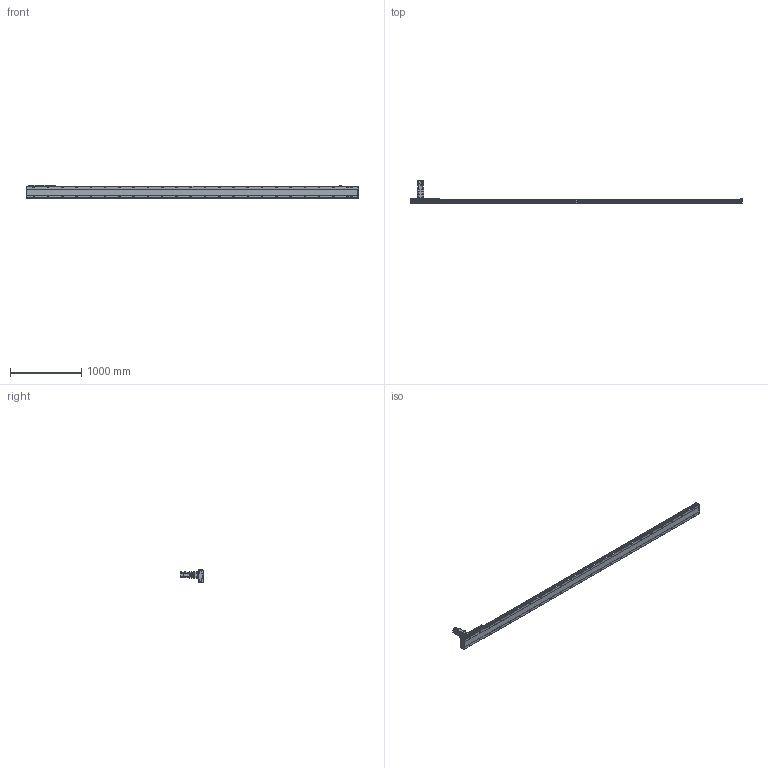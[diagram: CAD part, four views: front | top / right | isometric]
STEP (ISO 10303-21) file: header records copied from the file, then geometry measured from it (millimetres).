
FILE_DESCRIPTION(/* description */ ('STEP AP203'),/* implementation_level */ '2;1');
FILE_NAME(/* name */ 'SHS17A-L13-S4200-BC-T75-C1-N(0)',/* time_stamp */ '2023-03-27T08:59:03+02:00',/* author */ ('License CC BY-ND 4.0'),/* organization */ ('CADENAS'),/* preprocessor_version */ 'ST-DEVELOPER v19.3',/* originating_system */ 'PARTsolutions',/* authorisation */ ' ');
FILE_SCHEMA (('CONFIG_CONTROL_DESIGN'));
Length unit declared in the file: millimetre
Products named in the file (7): SHS17A-L13-S4200-BC-T75-C1-N(0); PSC140-sensor; SHS17A-S4200(0)_body2; T75-p1; SHS17A-S4200_body3; SHS17A-S4200-C1(0)_slider; SHS17A-S4200-C1(0)_body
Assembly tree (13 placements, depth 2):
  SHS17A-L13-S4200-BC-T75-C1-N(0)
    PSC140-sensor  x3
    SHS17A-S4200(0)_body2  x6
    T75-p1
    SHS17A-S4200_body3
    SHS17A-S4200-C1(0)_slider
    SHS17A-S4200-C1(0)_body
Bounding box: 4654 x 333.8 x 193.4 mm (x, y, z)
Volume: 31594851.1 mm3; surface area: 3617213.1 mm2
Topology: 13 solids, 13 shells, 2424 faces, 6191 edges, 4030 vertices
Faces by surface type: plane 1481, cylinder 838, cone 102, torus 3
Full cylindrical faces by diameter (mm): 2.8 x3, 4.134 x24, 4.5 x2, 4.6 x3, 4.917 x15, 5.5 x48, 6 x7, 6.5 x24, 6.647 x56, 6.8 x9, 8 x3, 8.5 x48, 10 x28, 11 x4, 14 x48, 22 x1, 24 x1, 24.2 x1, 28 x1, 28.2 x1, 28.8 x1, 29.8 x1, 48.542 x1, 68 x1, 70 x1, 78 x1, 80 x2
Entity records: 49668 total; most frequent: CARTESIAN_POINT 10008, DIRECTION 8023, ORIENTED_EDGE 7788, EDGE_CURVE 3894, AXIS2_PLACEMENT_3D 2874, VERTEX_POINT 2743, EDGE_LOOP 2331, FACE_BOUND 2331
